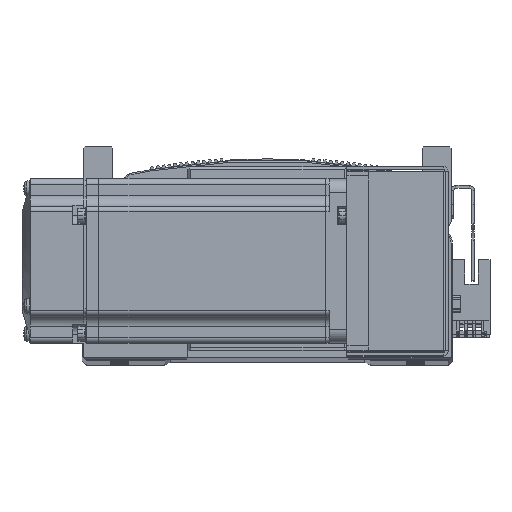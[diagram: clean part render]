
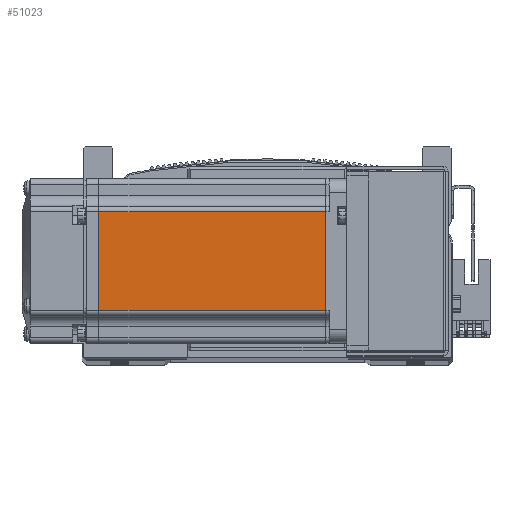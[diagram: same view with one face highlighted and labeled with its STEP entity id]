
A CAD part, top view. The second image highlights one B-rep face of the part: STEP entity #51023.
In plain terms, the highlighted planar face has unit normal (0, 0, 1) as drawn and (0, -1, 0) by its records, which use the part's own axes.
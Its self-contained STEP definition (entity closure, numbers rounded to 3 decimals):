
#4873 = CARTESIAN_POINT ( 'NONE',  ( -7.75, -30., 0. ) ) ;
#4884 = CARTESIAN_POINT ( 'NONE',  ( -90.45, -30., 0. ) ) ;
#4892 = DIRECTION ( 'NONE',  ( 0., 0., -1. ) ) ;
#4901 = DIRECTION ( 'NONE',  ( 0., 0., -1. ) ) ;
#4997 = CARTESIAN_POINT ( 'NONE',  ( -6.5, -30., 18. ) ) ;
#5106 = DIRECTION ( 'NONE',  ( -1., 0., 0. ) ) ;
#5350 = DIRECTION ( 'NONE',  ( -1., 0., 0. ) ) ;
#5351 = CARTESIAN_POINT ( 'NONE',  ( -6.5, -30., -18. ) ) ;
#7911 = LINE ( 'NONE', #4884, #7947 ) ;
#7947 = VECTOR ( 'NONE', #4901, 1000. ) ;
#7996 = VECTOR ( 'NONE', #5106, 1000. ) ;
#7999 = LINE ( 'NONE', #4873, #8011 ) ;
#8011 = VECTOR ( 'NONE', #4892, 1000. ) ;
#8047 = LINE ( 'NONE', #4997, #7996 ) ;
#8210 = VECTOR ( 'NONE', #5350, 1000. ) ;
#8274 = LINE ( 'NONE', #5351, #8210 ) ;
#36392 = AXIS2_PLACEMENT_3D ( 'NONE', #54997, #55013, #54990 ) ;
#43910 = CARTESIAN_POINT ( 'NONE',  ( -90.45, -30., -18. ) ) ;
#43919 = CARTESIAN_POINT ( 'NONE',  ( -7.75, -30., -18. ) ) ;
#43928 = CARTESIAN_POINT ( 'NONE',  ( -90.45, -30., 18. ) ) ;
#43945 = CARTESIAN_POINT ( 'NONE',  ( -7.75, -30., 18. ) ) ;
#51023 = ADVANCED_FACE ( 'NONE', ( #84476 ), #55029, .T. ) ;
#54990 = DIRECTION ( 'NONE',  ( 0., 0., -1. ) ) ;
#54997 = CARTESIAN_POINT ( 'NONE',  ( -6.5, -30., -25. ) ) ;
#55013 = DIRECTION ( 'NONE',  ( 0., -1., 0. ) ) ;
#55029 = PLANE ( 'NONE',  #36392 ) ;
#58527 = ORIENTED_EDGE ( 'NONE', *, *, #76322, .T. ) ;
#58533 = ORIENTED_EDGE ( 'NONE', *, *, #76336, .F. ) ;
#58541 = ORIENTED_EDGE ( 'NONE', *, *, #76613, .F. ) ;
#58588 = ORIENTED_EDGE ( 'NONE', *, *, #76410, .T. ) ;
#73467 = EDGE_LOOP ( 'NONE', ( #58533, #58588, #58527, #58541 ) ) ;
#76322 = EDGE_CURVE ( 'NONE', #79795, #79830, #7911, .T. ) ;
#76336 = EDGE_CURVE ( 'NONE', #79844, #79827, #7999, .T. ) ;
#76410 = EDGE_CURVE ( 'NONE', #79844, #79795, #8047, .T. ) ;
#76613 = EDGE_CURVE ( 'NONE', #79827, #79830, #8274, .T. ) ;
#79795 = VERTEX_POINT ( 'NONE', #43928 ) ;
#79827 = VERTEX_POINT ( 'NONE', #43919 ) ;
#79830 = VERTEX_POINT ( 'NONE', #43910 ) ;
#79844 = VERTEX_POINT ( 'NONE', #43945 ) ;
#84476 = FACE_OUTER_BOUND ( 'NONE', #73467, .T. ) ;
